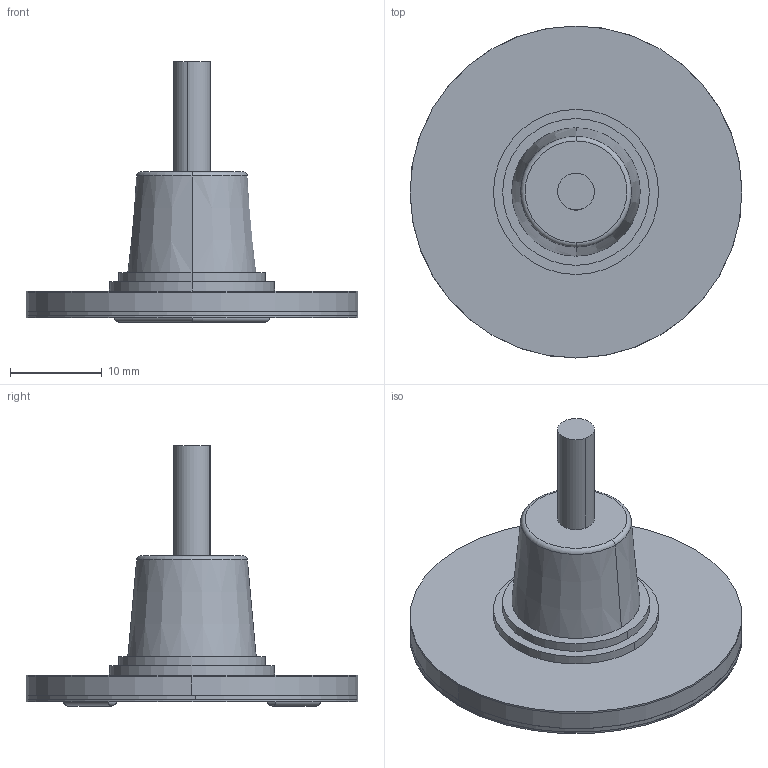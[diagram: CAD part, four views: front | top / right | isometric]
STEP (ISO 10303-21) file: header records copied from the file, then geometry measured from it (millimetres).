
FILE_DESCRIPTION (( 'STEP AP203' ), '1' );
FILE_NAME ('3D_TFH13-A.STEP', '2017-02-10T02:42:58', ( 'Phil Lee' ), ( 'Toshiba' ), 'SwSTEP 2.0', 'SolidWorks 2015', '' );
FILE_SCHEMA (( 'CONFIG_CONTROL_DESIGN' ));
Length unit declared in the file: millimetre
Products named in the file (1): 3D_TFH13-A
Bounding box: 36.2 x 36.2 x 28.4 mm (x, y, z)
Volume: 5067.2 mm3; surface area: 9781.5 mm2
Topology: 6 solids, 6 shells, 44 faces, 80 edges, 52 vertices
Faces by surface type: cylinder 26, plane 14, torus 2, cone 2
Entity records: 1155 total; most frequent: CARTESIAN_POINT 213, DIRECTION 194, ORIENTED_EDGE 160, AXIS2_PLACEMENT_3D 81, EDGE_CURVE 80, VERTEX_POINT 52, EDGE_LOOP 48, ADVANCED_FACE 44
